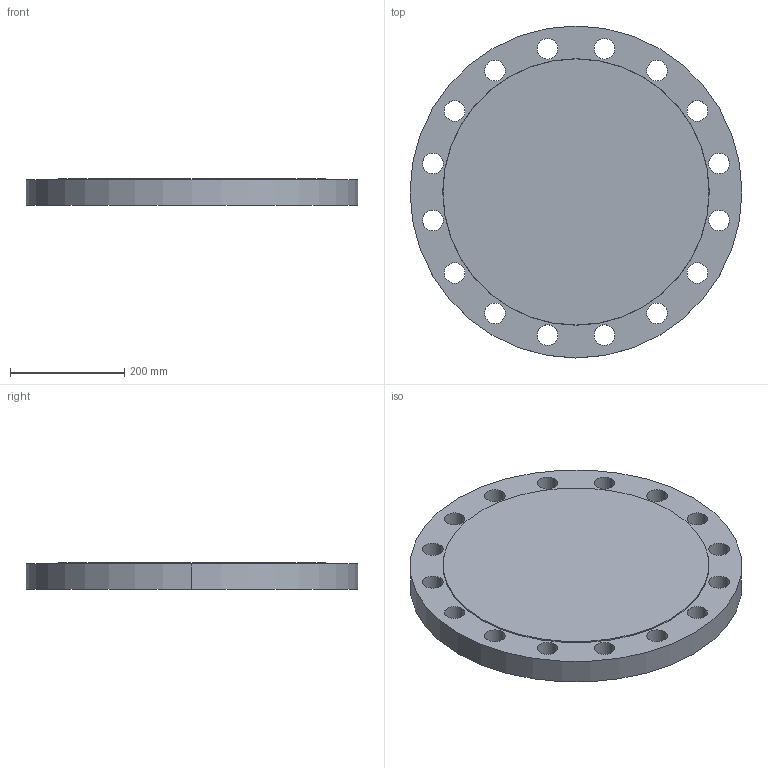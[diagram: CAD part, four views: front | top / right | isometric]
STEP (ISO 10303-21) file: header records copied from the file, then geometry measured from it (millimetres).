
FILE_DESCRIPTION (( 'STEP AP214' ), '1' );
FILE_NAME ('PN40 DN350 Type 05 - Type B Face.STEP', '2019-01-05T21:56:30', ( '' ), ( '' ), 'SwSTEP 2.0', 'SolidWorks 2019', '' );
FILE_SCHEMA (( 'AUTOMOTIVE_DESIGN' ));
Length unit declared in the file: millimetre
Products named in the file (1): PN40 DN350 Type 05 - Type B Face
Bounding box: 580 x 580 x 46 mm (x, y, z)
Volume: 11248725.6 mm3; surface area: 658091.3 mm2
Topology: 1 solids, 1 shells, 39 faces, 108 edges, 72 vertices
Faces by surface type: cylinder 34, plane 3, cone 2
Entity records: 1392 total; most frequent: DIRECTION 260, CARTESIAN_POINT 220, ORIENTED_EDGE 216, AXIS2_PLACEMENT_3D 112, EDGE_CURVE 108, CIRCLE 72, EDGE_LOOP 72, VERTEX_POINT 72
